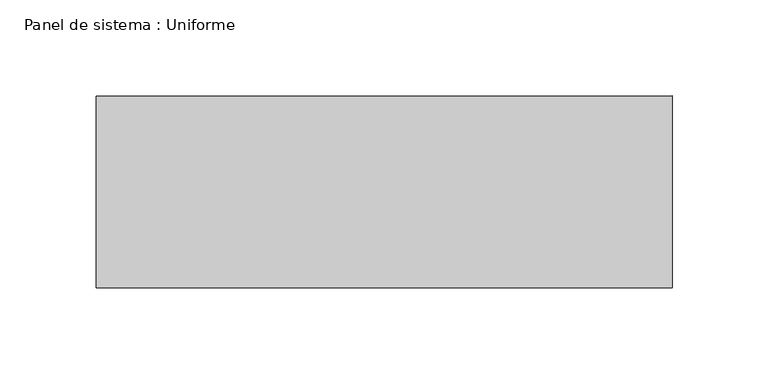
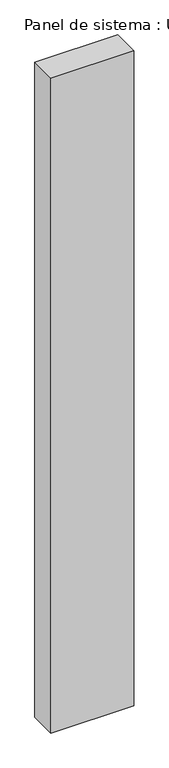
"""IFC4 building model written with IfcOpenShell, lengths in millimetres: plate geometry, Panel de sistema : Uniforme."""

from ifc_helpers import new_model, si_unit, origin, origin_with_axes, place, context, project, spatial, polyline, outline, extrude, source, transform, mapped, element, save


def panel_de_sistema_uniforme_808d6ee9(model_context):
    return source(origin(), model_context, "Body", "SweptSolid", [
        extrude(outline(polyline([(150.0, -50.0), (-150.0, -50.0), (-150.0, 50.0), (150.0, 50.0), (150.0, -50.0)])), origin_with_axes(), (0.0, 0.0, 1.0), 2500.0),
    ])


if __name__ == "__main__":
    model = new_model("IFC4")
    model_context = context("Model", 3, world=origin())
    ifc_project = project(units=[si_unit("LENGTHUNIT", "METRE", prefix="MILLI")], contexts=[model_context])
    site = spatial("IfcSite", under=ifc_project)
    building = spatial("IfcBuilding", under=site)
    placement = place(None, origin())
    panel_de_sistema_uniforme_shape = panel_de_sistema_uniforme_808d6ee9(model_context)
    element("IfcPlate", 1, ObjectType="Panel de sistema : Uniforme", at=placement, inside=building, context=model_context, shape_type="MappedRepresentation", body=[
        mapped(panel_de_sistema_uniforme_shape, transform((0.0, 0.0, 0.0), x_axis=(1.0, 0.0, 0.0), y_axis=(0.0, 1.0, 0.0), z_axis=(0.0, 0.0, 1.0))),
    ])
    save(model, "model.ifc")
